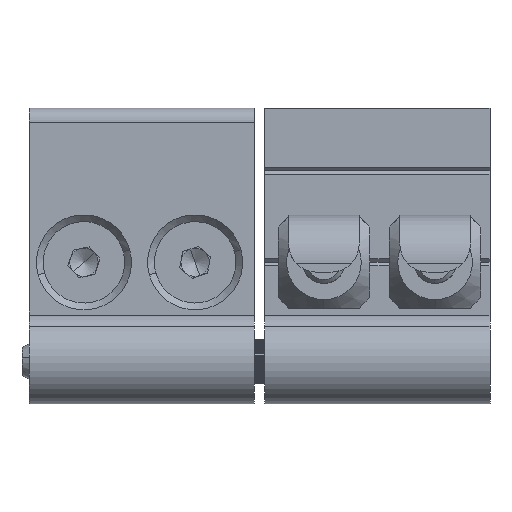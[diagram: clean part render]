
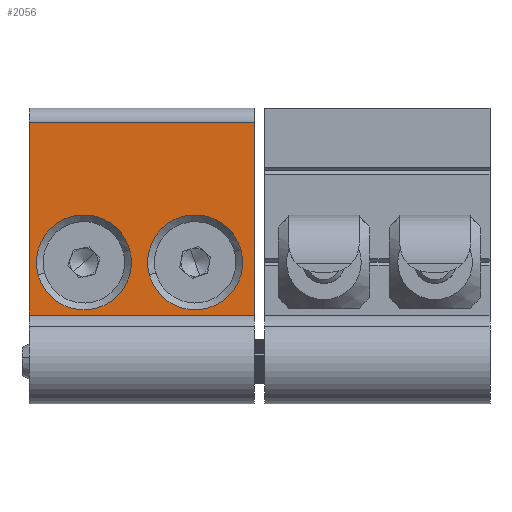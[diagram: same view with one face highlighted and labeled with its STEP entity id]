
A CAD part, front view. The second image highlights one B-rep face of the part: STEP entity #2056.
In plain terms, the highlighted planar face has unit normal (0, -1, 0).
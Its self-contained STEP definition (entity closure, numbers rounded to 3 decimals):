
#396 = DIRECTION ( 'NONE',  ( 0., -1., 0. ) ) ;
#703 = CARTESIAN_POINT ( 'NONE',  ( -4.104, 11.534, -1.856 ) ) ;
#834 = CIRCLE ( 'NONE', #22875, 6.75 ) ;
#964 = EDGE_CURVE ( 'NONE', #5069, #26655, #18059, .T. ) ;
#1998 = VERTEX_POINT ( 'NONE', #15079 ) ;
#2056 = ADVANCED_FACE ( 'NONE', ( #2838, #5644, #24117 ), #21668, .T. ) ;
#2130 = EDGE_LOOP ( 'NONE', ( #7774, #13437 ) ) ;
#2393 = CARTESIAN_POINT ( 'NONE',  ( -36.744, 11.534, -15.548 ) ) ;
#2838 = FACE_BOUND ( 'NONE', #13815, .T. ) ;
#3109 = DIRECTION ( 'NONE',  ( 1., 0., 0. ) ) ;
#3761 = EDGE_CURVE ( 'NONE', #23436, #1998, #24628, .T. ) ;
#3790 = EDGE_CURVE ( 'NONE', #10358, #5069, #17156, .T. ) ;
#4637 = CARTESIAN_POINT ( 'NONE',  ( -22.428, 11.534, -6.302 ) ) ;
#4886 = ORIENTED_EDGE ( 'NONE', *, *, #964, .T. ) ;
#5069 = VERTEX_POINT ( 'NONE', #2393 ) ;
#5153 = DIRECTION ( 'NONE',  ( 0., -1., 0. ) ) ;
#5187 = CIRCLE ( 'NONE', #21271, 6.75 ) ;
#5383 = CARTESIAN_POINT ( 'NONE',  ( -4.744, 11.534, 11.837 ) ) ;
#5644 = FACE_BOUND ( 'NONE', #2130, .T. ) ;
#6043 = CARTESIAN_POINT ( 'NONE',  ( -36.744, 11.534, -15.548 ) ) ;
#6370 = CARTESIAN_POINT ( 'NONE',  ( -35.46, 11.534, -9.823 ) ) ;
#6376 = VECTOR ( 'NONE', #13064, 1000. ) ;
#7294 = LINE ( 'NONE', #27799, #29947 ) ;
#7642 = EDGE_CURVE ( 'NONE', #12846, #24398, #834, .T. ) ;
#7774 = ORIENTED_EDGE ( 'NONE', *, *, #12438, .F. ) ;
#8978 = DIRECTION ( 'NONE',  ( -1., 0., 0. ) ) ;
#8987 = CIRCLE ( 'NONE', #16756, 6.75 ) ;
#9720 = EDGE_CURVE ( 'NONE', #27959, #10358, #14988, .T. ) ;
#10039 = DIRECTION ( 'NONE',  ( 0., 0., -1. ) ) ;
#10358 = VERTEX_POINT ( 'NONE', #13989 ) ;
#12438 = EDGE_CURVE ( 'NONE', #1998, #23436, #8987, .T. ) ;
#12846 = VERTEX_POINT ( 'NONE', #4637 ) ;
#13064 = DIRECTION ( 'NONE',  ( 1., 0., 0. ) ) ;
#13437 = ORIENTED_EDGE ( 'NONE', *, *, #3761, .F. ) ;
#13465 = CARTESIAN_POINT ( 'NONE',  ( -4.744, 11.534, -15.548 ) ) ;
#13815 = EDGE_LOOP ( 'NONE', ( #20028, #23838 ) ) ;
#13989 = CARTESIAN_POINT ( 'NONE',  ( -36.744, 11.534, 11.837 ) ) ;
#14030 = DIRECTION ( 'NONE',  ( 0., 0., 1. ) ) ;
#14626 = DIRECTION ( 'NONE',  ( -1., 0., 0. ) ) ;
#14668 = DIRECTION ( 'NONE',  ( -1., 0., 0. ) ) ;
#14720 = CARTESIAN_POINT ( 'NONE',  ( -13.144, 11.534, -8.063 ) ) ;
#14937 = DIRECTION ( 'NONE',  ( 0., -1., 0. ) ) ;
#14988 = LINE ( 'NONE', #5383, #28512 ) ;
#15079 = CARTESIAN_POINT ( 'NONE',  ( -19.66, 11.534, -9.823 ) ) ;
#15857 = CARTESIAN_POINT ( 'NONE',  ( -28.944, 11.534, -8.063 ) ) ;
#16564 = DIRECTION ( 'NONE',  ( 0., 0., -1. ) ) ;
#16673 = CARTESIAN_POINT ( 'NONE',  ( -6.628, 11.534, -6.302 ) ) ;
#16716 = CARTESIAN_POINT ( 'NONE',  ( -13.144, 11.534, -8.063 ) ) ;
#16756 = AXIS2_PLACEMENT_3D ( 'NONE', #14720, #19797, #3109 ) ;
#17156 = LINE ( 'NONE', #18891, #23660 ) ;
#18059 = LINE ( 'NONE', #6043, #6376 ) ;
#18367 = ORIENTED_EDGE ( 'NONE', *, *, #21265, .T. ) ;
#18891 = CARTESIAN_POINT ( 'NONE',  ( -36.744, 11.534, 11.837 ) ) ;
#19185 = DIRECTION ( 'NONE',  ( 1., 0., 0. ) ) ;
#19797 = DIRECTION ( 'NONE',  ( 0., -1., 0. ) ) ;
#19909 = EDGE_LOOP ( 'NONE', ( #4886, #18367, #26683, #23845 ) ) ;
#20028 = ORIENTED_EDGE ( 'NONE', *, *, #28014, .F. ) ;
#20608 = DIRECTION ( 'NONE',  ( 0., -1., 0. ) ) ;
#21226 = CARTESIAN_POINT ( 'NONE',  ( -4.744, 11.534, 11.837 ) ) ;
#21265 = EDGE_CURVE ( 'NONE', #26655, #27959, #7294, .T. ) ;
#21271 = AXIS2_PLACEMENT_3D ( 'NONE', #23684, #396, #14626 ) ;
#21668 = PLANE ( 'NONE',  #26490 ) ;
#22875 = AXIS2_PLACEMENT_3D ( 'NONE', #15857, #20608, #8978 ) ;
#23436 = VERTEX_POINT ( 'NONE', #16673 ) ;
#23660 = VECTOR ( 'NONE', #16564, 1000. ) ;
#23684 = CARTESIAN_POINT ( 'NONE',  ( -28.944, 11.534, -8.063 ) ) ;
#23838 = ORIENTED_EDGE ( 'NONE', *, *, #7642, .F. ) ;
#23845 = ORIENTED_EDGE ( 'NONE', *, *, #3790, .T. ) ;
#24117 = FACE_OUTER_BOUND ( 'NONE', #19909, .T. ) ;
#24398 = VERTEX_POINT ( 'NONE', #6370 ) ;
#24628 = CIRCLE ( 'NONE', #25151, 6.75 ) ;
#25151 = AXIS2_PLACEMENT_3D ( 'NONE', #16716, #5153, #19185 ) ;
#26490 = AXIS2_PLACEMENT_3D ( 'NONE', #703, #14937, #10039 ) ;
#26655 = VERTEX_POINT ( 'NONE', #13465 ) ;
#26683 = ORIENTED_EDGE ( 'NONE', *, *, #9720, .T. ) ;
#27799 = CARTESIAN_POINT ( 'NONE',  ( -4.744, 11.534, -15.548 ) ) ;
#27959 = VERTEX_POINT ( 'NONE', #21226 ) ;
#28014 = EDGE_CURVE ( 'NONE', #24398, #12846, #5187, .T. ) ;
#28512 = VECTOR ( 'NONE', #14668, 1000. ) ;
#29947 = VECTOR ( 'NONE', #14030, 1000. ) ;
